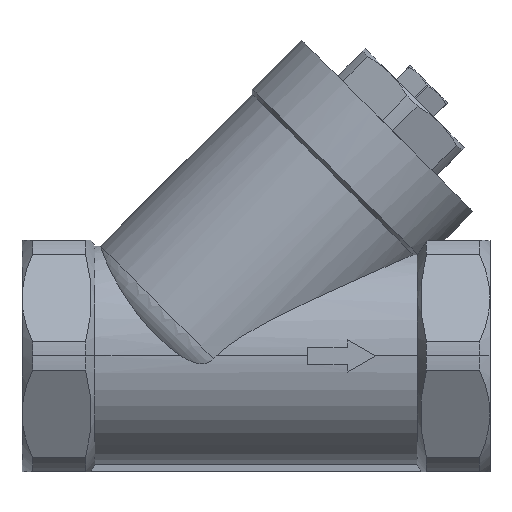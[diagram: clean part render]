
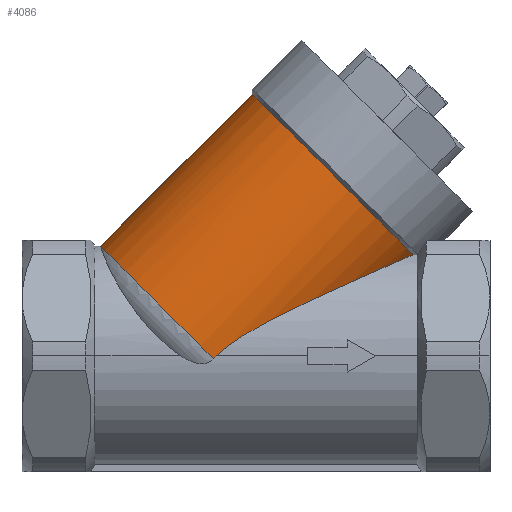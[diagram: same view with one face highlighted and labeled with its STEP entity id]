
A CAD part, top view. The second image highlights one B-rep face of the part: STEP entity #4086.
In plain terms, the highlighted cylindrical face has radius 42 mm (diameter 84 mm), a partial arc.
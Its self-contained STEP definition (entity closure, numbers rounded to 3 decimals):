
#87 = ORIENTED_EDGE ( 'NONE', *, *, #2371, .F. ) ;
#134 = AXIS2_PLACEMENT_3D ( 'NONE', #1447, #3828, #3490 ) ;
#177 = DIRECTION ( 'NONE',  ( 0.707, 0.707, 0. ) ) ;
#323 = CARTESIAN_POINT ( 'NONE',  ( -14.214, 0., 39.25 ) ) ;
#339 = DIRECTION ( 'NONE',  ( 0.707, 0.707, 0. ) ) ;
#407 = CARTESIAN_POINT ( 'NONE',  ( -55.5, 39.25, 0. ) ) ;
#466 = VERTEX_POINT ( 'NONE', #407 ) ;
#489 = EDGE_LOOP ( 'NONE', ( #1275, #1420, #87, #3133, #4374 ) ) ;
#762 = CARTESIAN_POINT ( 'NONE',  ( -15.206, -1.044, 39.236 ) ) ;
#771 = CARTESIAN_POINT ( 'NONE',  ( -8.808, 4.485, 38.996 ) ) ;
#793 = VERTEX_POINT ( 'NONE', #2452 ) ;
#805 = CARTESIAN_POINT ( 'NONE',  ( 51.029, 33.938, 19.753 ) ) ;
#870 = CARTESIAN_POINT ( 'NONE',  ( 53.619, 35.065, 17.675 ) ) ;
#919 = CARTESIAN_POINT ( 'NONE',  ( 46.938, 32.151, 22.541 ) ) ;
#945 = AXIS2_PLACEMENT_3D ( 'NONE', #1110, #3516, #1469 ) ;
#971 = CARTESIAN_POINT ( 'NONE',  ( 45.529, 31.533, 23.395 ) ) ;
#1004 = CARTESIAN_POINT ( 'NONE',  ( 43.371, 30.583, 24.606 ) ) ;
#1110 = CARTESIAN_POINT ( 'NONE',  ( 28.413, 63.766, 0. ) ) ;
#1124 = CARTESIAN_POINT ( 'NONE',  ( 1.647, 10.874, 37.723 ) ) ;
#1147 = CARTESIAN_POINT ( 'NONE',  ( 6.256, 13.337, 36.955 ) ) ;
#1162 = AXIS2_PLACEMENT_3D ( 'NONE', #2523, #339, #2850 ) ;
#1221 = CARTESIAN_POINT ( 'NONE',  ( 24.698, 22.209, 32.406 ) ) ;
#1275 = ORIENTED_EDGE ( 'NONE', *, *, #2252, .F. ) ;
#1313 = CARTESIAN_POINT ( 'NONE',  ( 54.869, 35.608, 16.564 ) ) ;
#1324 = VERTEX_POINT ( 'NONE', #323 ) ;
#1330 = B_SPLINE_CURVE_WITH_KNOTS ( 'NONE', 3,
 ( #1800, #2359, #1519, #1452 ),
 .UNSPECIFIED., .F., .F.,
 ( 4, 4 ),
 ( 0.086, 0.088 ),
 .UNSPECIFIED. ) ;
#1331 = CARTESIAN_POINT ( 'NONE',  ( 27.741, 23.6, 31.412 ) ) ;
#1366 = CARTESIAN_POINT ( 'NONE',  ( 33.773, 26.325, 29.166 ) ) ;
#1420 = ORIENTED_EDGE ( 'NONE', *, *, #3571, .T. ) ;
#1447 = CARTESIAN_POINT ( 'NONE',  ( 61.647, 97., 0. ) ) ;
#1452 = CARTESIAN_POINT ( 'NONE',  ( -15.206, -1.044, 39.236 ) ) ;
#1469 = DIRECTION ( 'NONE',  ( -0.707, 0.707, 0. ) ) ;
#1519 = CARTESIAN_POINT ( 'NONE',  ( -14.884, -0.686, 39.246 ) ) ;
#1571 = CARTESIAN_POINT ( 'NONE',  ( -4.416, 7.388, 38.56 ) ) ;
#1586 = FACE_OUTER_BOUND ( 'NONE', #489, .T. ) ;
#1800 = CARTESIAN_POINT ( 'NONE',  ( -14.214, 0., 39.25 ) ) ;
#1829 = EDGE_CURVE ( 'NONE', #793, #1324, #2391, .T. ) ;
#1855 = CARTESIAN_POINT ( 'NONE',  ( -7.361, 5.484, 38.868 ) ) ;
#1863 = CARTESIAN_POINT ( 'NONE',  ( -1.286, 93.464, 0. ) ) ;
#1903 = CARTESIAN_POINT ( 'NONE',  ( 9.343, 14.891, 36.353 ) ) ;
#2137 = CARTESIAN_POINT ( 'NONE',  ( 18.58, 19.361, 34.184 ) ) ;
#2252 = EDGE_CURVE ( 'NONE', #466, #4236, #3794, .T. ) ;
#2359 = CARTESIAN_POINT ( 'NONE',  ( -14.553, -0.339, 39.25 ) ) ;
#2371 = EDGE_CURVE ( 'NONE', #1324, #3619, #1330, .T. ) ;
#2391 = B_SPLINE_CURVE_WITH_KNOTS ( 'NONE', 3,
 ( #3908, #1313, #870, #805, #3270, #919, #971, #1004, #3094, #3703, #3599, #3649, #1366, #1331, #1221, #2137, #2436, #1903, #1147, #1124, #3261, #3365, #1571, #3974, #1855, #771, #3750, #4046, #4076, #3899 ),
 .UNSPECIFIED., .F., .F.,
 ( 4, 2, 2, 2, 2, 2, 2, 2, 2, 2, 2, 2, 2, 2, 4 ),
 ( 0.002, 0.007, 0.013, 0.018, 0.021, 0.023, 0.034, 0.044, 0.055, 0.065, 0.071, 0.076, 0.078, 0.081, 0.086 ),
 .UNSPECIFIED. ) ;
#2436 = CARTESIAN_POINT ( 'NONE',  ( 15.504, 17.904, 34.968 ) ) ;
#2452 = CARTESIAN_POINT ( 'NONE',  ( 56.056, 36.123, 15.353 ) ) ;
#2523 = CARTESIAN_POINT ( 'NONE',  ( -25.802, 9.552, 0. ) ) ;
#2850 = DIRECTION ( 'NONE',  ( -0.707, 0.707, 0. ) ) ;
#2977 = CIRCLE ( 'NONE', #945, 42. ) ;
#3076 = CIRCLE ( 'NONE', #1162, 42. ) ;
#3094 = CARTESIAN_POINT ( 'NONE',  ( 42.644, 30.263, 24.999 ) ) ;
#3133 = ORIENTED_EDGE ( 'NONE', *, *, #1829, .F. ) ;
#3261 = CARTESIAN_POINT ( 'NONE',  ( 0.115, 10.031, 37.957 ) ) ;
#3270 = CARTESIAN_POINT ( 'NONE',  ( 49.688, 33.353, 20.72 ) ) ;
#3365 = CARTESIAN_POINT ( 'NONE',  ( -2.916, 8.288, 38.375 ) ) ;
#3490 = DIRECTION ( 'NONE',  ( -0.707, 0.707, 0. ) ) ;
#3516 = DIRECTION ( 'NONE',  ( 0.707, 0.707, 0. ) ) ;
#3571 = EDGE_CURVE ( 'NONE', #466, #3619, #3076, .T. ) ;
#3579 = EDGE_CURVE ( 'NONE', #4236, #793, #2977, .T. ) ;
#3599 = CARTESIAN_POINT ( 'NONE',  ( 40.447, 29.293, 26.129 ) ) ;
#3619 = VERTEX_POINT ( 'NONE', #762 ) ;
#3649 = CARTESIAN_POINT ( 'NONE',  ( 36.762, 27.66, 27.915 ) ) ;
#3676 = VECTOR ( 'NONE', #177, 1000. ) ;
#3703 = CARTESIAN_POINT ( 'NONE',  ( 41.181, 29.617, 25.761 ) ) ;
#3750 = CARTESIAN_POINT ( 'NONE',  ( -9.524, 3.969, 39.052 ) ) ;
#3794 = LINE ( 'NONE', #3995, #3676 ) ;
#3828 = DIRECTION ( 'NONE',  ( 0.707, 0.707, 0. ) ) ;
#3899 = CARTESIAN_POINT ( 'NONE',  ( -14.214, 0., 39.25 ) ) ;
#3908 = CARTESIAN_POINT ( 'NONE',  ( 56.056, 36.123, 15.353 ) ) ;
#3970 = CYLINDRICAL_SURFACE ( 'NONE', #134, 42. ) ;
#3974 = CARTESIAN_POINT ( 'NONE',  ( -6.63, 5.969, 38.796 ) ) ;
#3995 = CARTESIAN_POINT ( 'NONE',  ( 31.948, 126.698, 0. ) ) ;
#4046 = CARTESIAN_POINT ( 'NONE',  ( -11.627, 2.373, 39.193 ) ) ;
#4076 = CARTESIAN_POINT ( 'NONE',  ( -12.971, 1.243, 39.25 ) ) ;
#4086 = ADVANCED_FACE ( 'NONE', ( #1586 ), #3970, .T. ) ;
#4236 = VERTEX_POINT ( 'NONE', #1863 ) ;
#4374 = ORIENTED_EDGE ( 'NONE', *, *, #3579, .F. ) ;
